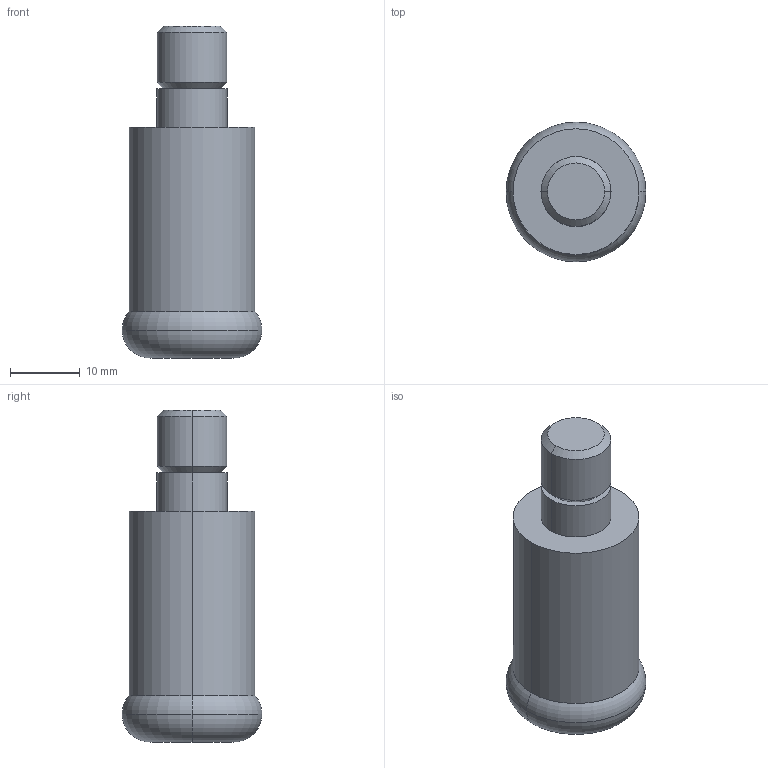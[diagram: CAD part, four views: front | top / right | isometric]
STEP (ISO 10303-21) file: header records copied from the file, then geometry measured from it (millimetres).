
FILE_DESCRIPTION(('STEP AP214'),'1');
FILE_NAME('cctmp_3FB419FA-1E78-4531-A27D-7A0867A19D4C_2020_10_01_10_28_49_0042..stp','2020-10-01T08:28:49',('Meusburger Georg GmbH & Co KG'),('CADClick - www.CADClick.com'),'Spatial InterOp 3D',' ','unknown authorization');
FILE_SCHEMA(('AUTOMOTIVE_DESIGN { 1 0 10303 214 1 1 1 1 }'));
Length unit declared in the file: millimetre
Products named in the file (1): WZT2514_08_20_3
Bounding box: 20 x 20 x 47.5 mm (x, y, z)
Volume: 9662.5 mm3; surface area: 2843 mm2
Topology: 1 solids, 1 shells, 18 faces, 34 edges, 20 vertices
Faces by surface type: cylinder 6, torus 4, cone 4, plane 4
Entity records: 626 total; most frequent: DIRECTION 96, CARTESIAN_POINT 73, ORIENTED_EDGE 68, AXIS2_PLACEMENT_3D 43, EDGE_CURVE 34, CIRCLE 24, EDGE_LOOP 20, VERTEX_POINT 20
